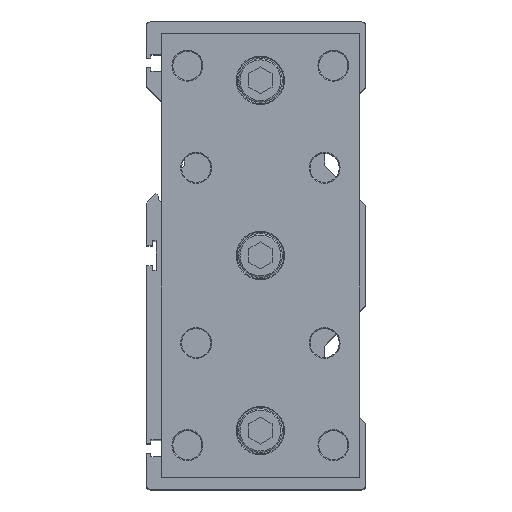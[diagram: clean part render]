
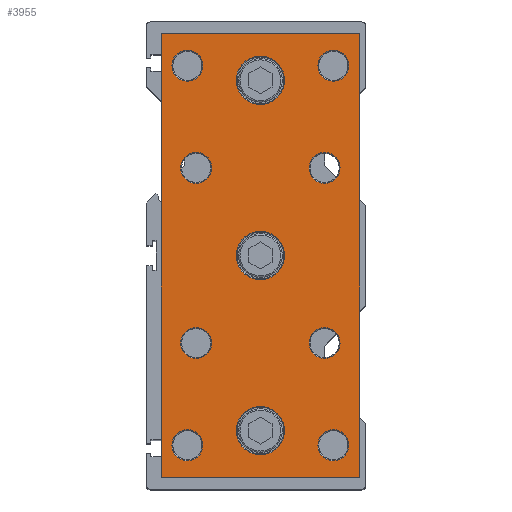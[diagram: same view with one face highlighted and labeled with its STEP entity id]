
A CAD part, top view. The second image highlights one B-rep face of the part: STEP entity #3955.
In plain terms, the highlighted planar face has unit normal (0, 0, 1).
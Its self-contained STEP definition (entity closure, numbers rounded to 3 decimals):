
#3598=CARTESIAN_POINT('',(34.,76.0,17.0));
#3599=VERTEX_POINT('',#3598);
#3600=CARTESIAN_POINT('',(34.,-76.0,17.0));
#3601=VERTEX_POINT('',#3600);
#3602=CARTESIAN_POINT('',(34.,76.0,17.0));
#3603=DIRECTION('',(0.0,-1.0,0.0));
#3604=VECTOR('',#3603,152.0);
#3605=LINE('',#3602,#3604);
#3606=EDGE_CURVE('',#3599,#3601,#3605,.T.);
#3732=CARTESIAN_POINT('',(-34.,-76.0,17.0));
#3733=VERTEX_POINT('',#3732);
#3734=CARTESIAN_POINT('',(-34.,76.0,17.0));
#3735=VERTEX_POINT('',#3734);
#3736=CARTESIAN_POINT('',(-34.,-76.0,17.0));
#3737=DIRECTION('',(0.0,1.0,0.0));
#3738=VECTOR('',#3737,152.0);
#3739=LINE('',#3736,#3738);
#3740=EDGE_CURVE('',#3733,#3735,#3739,.T.);
#3809=CARTESIAN_POINT('',(8.3,0.,17.0));
#3810=VERTEX_POINT('',#3809);
#3811=CARTESIAN_POINT('',(0.0,0.0,17.0));
#3812=DIRECTION('',(0.0,0.0,1.0));
#3813=DIRECTION('',(-1.0,0.0,0.0));
#3814=AXIS2_PLACEMENT_3D('',#3811,#3812,#3813);
#3815=CIRCLE('',#3814,8.3);
#3816=EDGE_CURVE('',#3810,#3810,#3815,.T.);
#3821=CARTESIAN_POINT('',(0.0,0.,17.0));
#3822=DIRECTION('',(0.0,0.0,1.0));
#3823=DIRECTION('',(1.0,0.0,0.0));
#3824=AXIS2_PLACEMENT_3D('',#3821,#3822,#3823);
#3825=PLANE('',#3824);
#3826=ORIENTED_EDGE('',*,*,#3606,.F.);
#3827=CARTESIAN_POINT('',(-34.,76.0,17.0));
#3828=DIRECTION('',(1.0,0.0,0.0));
#3829=VECTOR('',#3828,68.);
#3830=LINE('',#3827,#3829);
#3831=EDGE_CURVE('',#3735,#3599,#3830,.T.);
#3832=ORIENTED_EDGE('',*,*,#3831,.F.);
#3833=ORIENTED_EDGE('',*,*,#3740,.F.);
#3834=CARTESIAN_POINT('',(34.,-76.0,17.0));
#3835=DIRECTION('',(-1.0,0.0,0.0));
#3836=VECTOR('',#3835,68.);
#3837=LINE('',#3834,#3836);
#3838=EDGE_CURVE('',#3601,#3733,#3837,.T.);
#3839=ORIENTED_EDGE('',*,*,#3838,.F.);
#3840=EDGE_LOOP('',(#3826,#3832,#3833,#3839));
#3841=FACE_OUTER_BOUND('',#3840,.T.);
#3842=CARTESIAN_POINT('',(8.3,-60.0,17.0));
#3843=VERTEX_POINT('',#3842);
#3844=CARTESIAN_POINT('',(0.0,-60.0,17.0));
#3845=DIRECTION('',(0.0,0.0,1.0));
#3846=DIRECTION('',(-1.0,0.0,0.0));
#3847=AXIS2_PLACEMENT_3D('',#3844,#3845,#3846);
#3848=CIRCLE('',#3847,8.3);
#3849=EDGE_CURVE('',#3843,#3843,#3848,.T.);
#3850=ORIENTED_EDGE('',*,*,#3849,.F.);
#3851=EDGE_LOOP('',(#3850));
#3852=FACE_BOUND('',#3851,.T.);
#3853=CARTESIAN_POINT('',(30.3,-65.0,17.0));
#3854=VERTEX_POINT('',#3853);
#3855=CARTESIAN_POINT('',(25.0,-65.0,17.0));
#3856=DIRECTION('',(0.0,0.0,1.0));
#3857=DIRECTION('',(-1.0,0.0,0.0));
#3858=AXIS2_PLACEMENT_3D('',#3855,#3856,#3857);
#3859=CIRCLE('',#3858,5.3);
#3860=EDGE_CURVE('',#3854,#3854,#3859,.T.);
#3861=ORIENTED_EDGE('',*,*,#3860,.F.);
#3862=EDGE_LOOP('',(#3861));
#3863=FACE_BOUND('',#3862,.T.);
#3864=CARTESIAN_POINT('',(30.3,65.0,17.0));
#3865=VERTEX_POINT('',#3864);
#3866=CARTESIAN_POINT('',(25.0,65.0,17.0));
#3867=DIRECTION('',(0.0,0.0,1.0));
#3868=DIRECTION('',(-1.0,0.0,0.0));
#3869=AXIS2_PLACEMENT_3D('',#3866,#3867,#3868);
#3870=CIRCLE('',#3869,5.3);
#3871=EDGE_CURVE('',#3865,#3865,#3870,.T.);
#3872=ORIENTED_EDGE('',*,*,#3871,.F.);
#3873=EDGE_LOOP('',(#3872));
#3874=FACE_BOUND('',#3873,.T.);
#3875=CARTESIAN_POINT('',(-19.7,-65.0,17.0));
#3876=VERTEX_POINT('',#3875);
#3877=CARTESIAN_POINT('',(-25.0,-65.0,17.0));
#3878=DIRECTION('',(0.0,0.0,1.0));
#3879=DIRECTION('',(-1.0,0.0,0.0));
#3880=AXIS2_PLACEMENT_3D('',#3877,#3878,#3879);
#3881=CIRCLE('',#3880,5.3);
#3882=EDGE_CURVE('',#3876,#3876,#3881,.T.);
#3883=ORIENTED_EDGE('',*,*,#3882,.F.);
#3884=EDGE_LOOP('',(#3883));
#3885=FACE_BOUND('',#3884,.T.);
#3886=CARTESIAN_POINT('',(-16.7,30.0,17.0));
#3887=VERTEX_POINT('',#3886);
#3888=CARTESIAN_POINT('',(-22.0,30.0,17.0));
#3889=DIRECTION('',(0.0,0.0,1.0));
#3890=DIRECTION('',(-1.0,0.0,0.0));
#3891=AXIS2_PLACEMENT_3D('',#3888,#3889,#3890);
#3892=CIRCLE('',#3891,5.3);
#3893=EDGE_CURVE('',#3887,#3887,#3892,.T.);
#3894=ORIENTED_EDGE('',*,*,#3893,.F.);
#3895=EDGE_LOOP('',(#3894));
#3896=FACE_BOUND('',#3895,.T.);
#3897=CARTESIAN_POINT('',(-19.7,65.0,17.0));
#3898=VERTEX_POINT('',#3897);
#3899=CARTESIAN_POINT('',(-25.0,65.0,17.0));
#3900=DIRECTION('',(0.0,0.0,1.0));
#3901=DIRECTION('',(-1.0,0.0,0.0));
#3902=AXIS2_PLACEMENT_3D('',#3899,#3900,#3901);
#3903=CIRCLE('',#3902,5.3);
#3904=EDGE_CURVE('',#3898,#3898,#3903,.T.);
#3905=ORIENTED_EDGE('',*,*,#3904,.F.);
#3906=EDGE_LOOP('',(#3905));
#3907=FACE_BOUND('',#3906,.T.);
#3908=CARTESIAN_POINT('',(-16.7,-30.0,17.0));
#3909=VERTEX_POINT('',#3908);
#3910=CARTESIAN_POINT('',(-22.0,-30.0,17.0));
#3911=DIRECTION('',(0.0,0.0,1.0));
#3912=DIRECTION('',(-1.0,0.0,0.0));
#3913=AXIS2_PLACEMENT_3D('',#3910,#3911,#3912);
#3914=CIRCLE('',#3913,5.3);
#3915=EDGE_CURVE('',#3909,#3909,#3914,.T.);
#3916=ORIENTED_EDGE('',*,*,#3915,.F.);
#3917=EDGE_LOOP('',(#3916));
#3918=FACE_BOUND('',#3917,.T.);
#3919=CARTESIAN_POINT('',(27.3,-30.0,17.0));
#3920=VERTEX_POINT('',#3919);
#3921=CARTESIAN_POINT('',(22.0,-30.0,17.0));
#3922=DIRECTION('',(0.0,0.0,1.0));
#3923=DIRECTION('',(-1.0,0.0,0.0));
#3924=AXIS2_PLACEMENT_3D('',#3921,#3922,#3923);
#3925=CIRCLE('',#3924,5.3);
#3926=EDGE_CURVE('',#3920,#3920,#3925,.T.);
#3927=ORIENTED_EDGE('',*,*,#3926,.F.);
#3928=EDGE_LOOP('',(#3927));
#3929=FACE_BOUND('',#3928,.T.);
#3930=CARTESIAN_POINT('',(27.3,30.0,17.0));
#3931=VERTEX_POINT('',#3930);
#3932=CARTESIAN_POINT('',(22.0,30.0,17.0));
#3933=DIRECTION('',(0.0,0.0,1.0));
#3934=DIRECTION('',(-1.0,0.0,0.0));
#3935=AXIS2_PLACEMENT_3D('',#3932,#3933,#3934);
#3936=CIRCLE('',#3935,5.3);
#3937=EDGE_CURVE('',#3931,#3931,#3936,.T.);
#3938=ORIENTED_EDGE('',*,*,#3937,.F.);
#3939=EDGE_LOOP('',(#3938));
#3940=FACE_BOUND('',#3939,.T.);
#3941=CARTESIAN_POINT('',(8.3,60.0,17.0));
#3942=VERTEX_POINT('',#3941);
#3943=CARTESIAN_POINT('',(0.0,60.0,17.0));
#3944=DIRECTION('',(0.0,0.0,1.0));
#3945=DIRECTION('',(-1.0,0.0,0.0));
#3946=AXIS2_PLACEMENT_3D('',#3943,#3944,#3945);
#3947=CIRCLE('',#3946,8.3);
#3948=EDGE_CURVE('',#3942,#3942,#3947,.T.);
#3949=ORIENTED_EDGE('',*,*,#3948,.F.);
#3950=EDGE_LOOP('',(#3949));
#3951=FACE_BOUND('',#3950,.T.);
#3952=ORIENTED_EDGE('',*,*,#3816,.F.);
#3953=EDGE_LOOP('',(#3952));
#3954=FACE_BOUND('',#3953,.T.);
#3955=ADVANCED_FACE('',(#3841,#3852,#3863,#3874,#3885,#3896,#3907,#3918,#3929,#3940,#3951,#3954),#3825,.T.);
